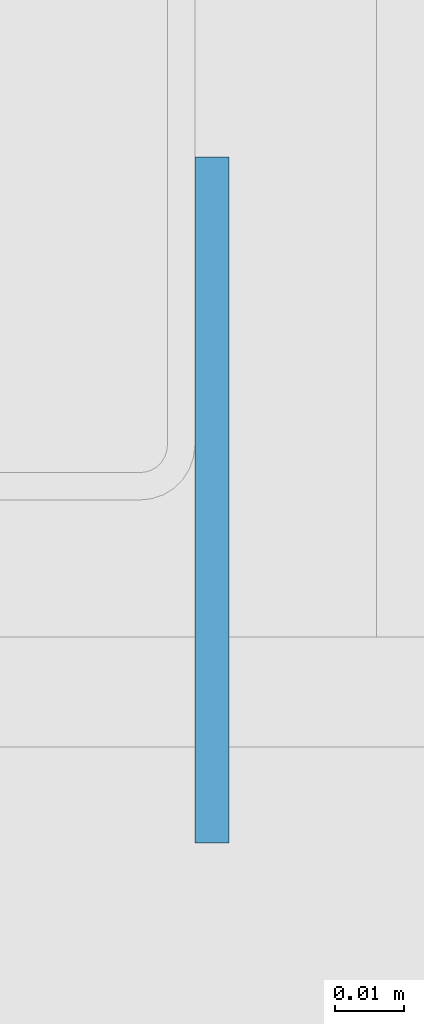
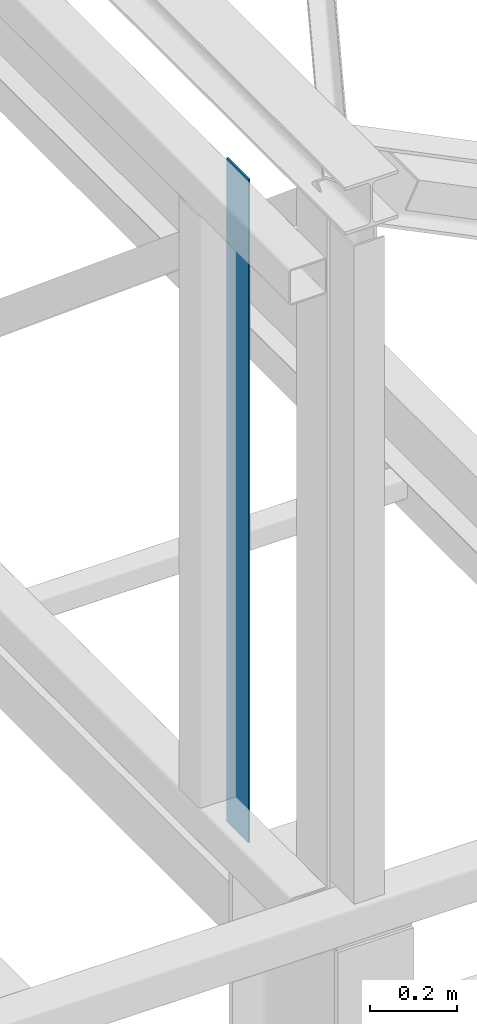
# One storey, part 56 of 123: 1 discrete accessory, 1 element without a shape of its own.
"""IFC2X3 building model written with IfcOpenShell, lengths in millimetres."""

from ifc_helpers import new_model, si_unit, frame, origin_with_axes, place, context, subcontext, project, spatial, polyline, outline, extrude, material, type_object, element, aggregate, save


model = new_model("IFC2X3")

# Units and contexts
model_context = context("Model", 3, precision=1e-05, world=origin_with_axes())
body_context = subcontext(model_context, "Body", "Model", "MODEL_VIEW")
ifc_project = project(units=[si_unit("LENGTHUNIT", "METRE", prefix="MILLI"), si_unit("AREAUNIT", "SQUARE_METRE"), si_unit("VOLUMEUNIT", "CUBIC_METRE"), si_unit("MASSUNIT", "GRAM", prefix="KILO"), si_unit("TIMEUNIT", "SECOND"), si_unit("PLANEANGLEUNIT", "RADIAN"), si_unit("SOLIDANGLEUNIT", "STERADIAN"), si_unit("THERMODYNAMICTEMPERATUREUNIT", "DEGREE_CELSIUS"), si_unit("LUMINOUSINTENSITYUNIT", "LUMEN")], contexts=[model_context])

# Site, building, storey
site_placement = place(None, origin_with_axes())
site = spatial("IfcSite", under=ifc_project, at=site_placement, Name="Undefined", CompositionType="ELEMENT")
building_placement = place(site_placement, origin_with_axes())
building = spatial("IfcBuilding", under=site, at=building_placement, Name="Undefined", CompositionType="ELEMENT")
storey_placement = place(building_placement, origin_with_axes())
storey = spatial("IfcBuildingStorey", under=building, at=storey_placement, Name="Undefined", CompositionType="ELEMENT", Elevation=0.0)

# Assembly, discrete accessory
assembly_placement = place(storey_placement, origin_with_axes())
assembly = element("IfcElementAssembly", 1, at=assembly_placement, inside=storey, Name="Steel Assembly", AssemblyPlace="NOTDEFINED", PredefinedType="RIGID_FRAME")
ifc_material = material(Name="STEEL/S235-E24")
discrete_accessory_type = type_object("IfcDiscreteAccessoryType", Name="FEUILLURE")
discrete_accessory_placement = place(assembly_placement, frame((34215.9999999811, 340.000158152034, 8450.0), z_axis=(1.0, 0.0, 0.0), x_axis=(0.0, 0.0, 1.0)))
discrete_accessory = element("IfcDiscreteAccessory", 2, at=discrete_accessory_placement, type_object=discrete_accessory_type, material=ifc_material, Name="FEUILLURE", ObjectType="PL100*5", context=body_context, shape_type="SweptSolid", body=[
    extrude(outline(polyline([(0.0, 50.0), (1855.0, 50.0), (1855.0, -50.0), (0.0, -50.0), (0.0, 50.0)])), frame((0.0, 0.0, -2.5), z_axis=(0.0, 0.0, 1.0), x_axis=(1.0, 0.0, 0.0)), (0.0, 0.0, 1.0), 5.0),
])
aggregate(assembly, [discrete_accessory])

save(model, "model.ifc")
